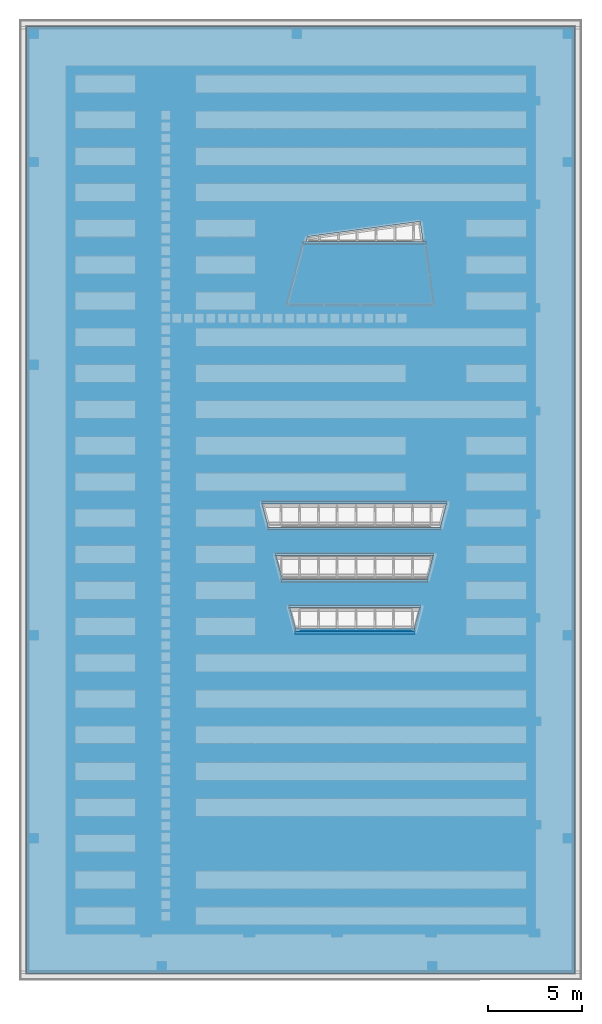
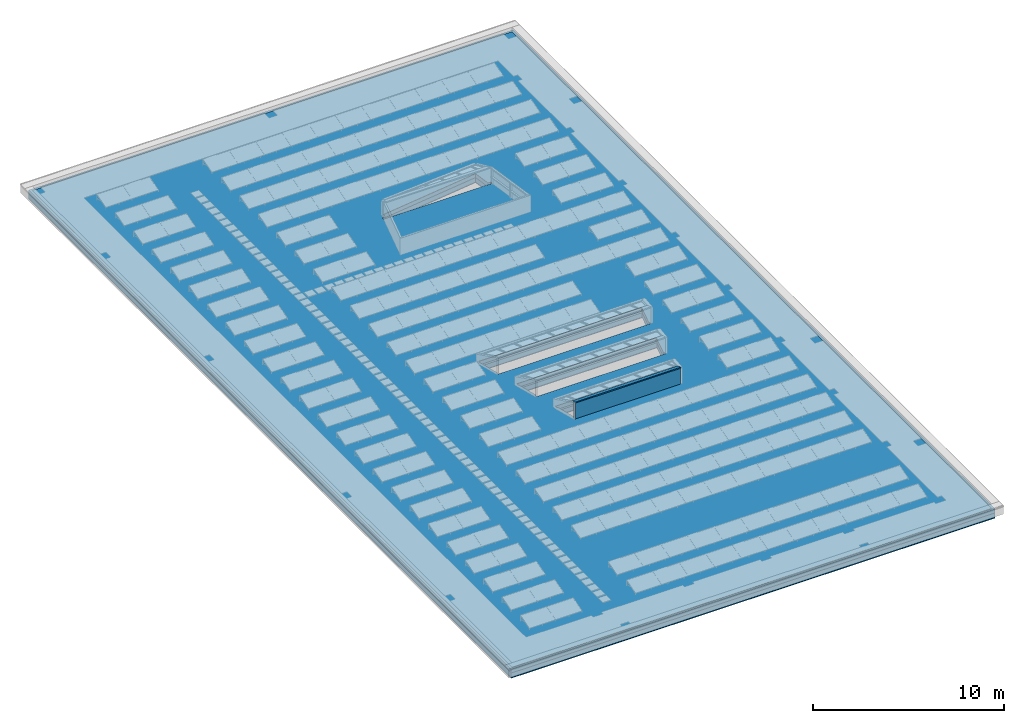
# One storey, part 10 of 20: 9 building element parts, 4 openings, 2 elements without a shape of their own.
"""IFC2X3 building model written with IfcOpenShell, lengths in millimetres."""

from ifc_helpers import new_model, entity, si_unit, converted_unit, derived_unit, money_unit, direction, frame, origin_with_axes, place, context, subcontext, project, spatial, faceted_brep, material, type_object, element, aggregate, save


model = new_model("IFC2X3")

# Units and contexts
model_context = context("Model", 3, precision=0.01, world=origin_with_axes(), true_north=direction((0.0, 1.0)))
plan_context = context("Plan", 3, precision=0.01, world=origin_with_axes(), true_north=direction((0.0, 1.0)))
body_context = subcontext(model_context, "Body", "Model", "MODEL_VIEW")
ifc_project = project(units=[si_unit("LENGTHUNIT", "METRE", prefix="MILLI"), si_unit("AREAUNIT", "SQUARE_METRE"), si_unit("VOLUMEUNIT", "CUBIC_METRE"), converted_unit("PLANEANGLEUNIT", "DEGREE", entity("IfcPlaneAngleMeasure", 0.0174532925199), si_unit("PLANEANGLEUNIT", "RADIAN"), dimensions=[0, 0, 0, 0, 0, 0, 0]), si_unit("SOLIDANGLEUNIT", "STERADIAN"), money_unit("EUR"), converted_unit("TIMEUNIT", "Year", entity("IfcTimeMeasure", 31556926.0), si_unit("TIMEUNIT", "SECOND"), dimensions=[0, 0, 1, 0, 0, 0, 0]), si_unit("MASSUNIT", "GRAM", prefix="KILO"), si_unit("THERMODYNAMICTEMPERATUREUNIT", "DEGREE_CELSIUS"), si_unit("LUMINOUSINTENSITYUNIT", "LUMEN"), si_unit("ENERGYUNIT", "JOULE", prefix="MEGA"), derived_unit("THERMALCONDUCTANCEUNIT", [(si_unit("POWERUNIT", "WATT"), 1), (si_unit("LENGTHUNIT", "METRE"), -1), (si_unit("THERMODYNAMICTEMPERATUREUNIT", "KELVIN"), -1)]), derived_unit("SPECIFICHEATCAPACITYUNIT", [(si_unit("ENERGYUNIT", "JOULE"), 1), (si_unit("MASSUNIT", "GRAM", prefix="KILO"), -1), (si_unit("THERMODYNAMICTEMPERATUREUNIT", "KELVIN"), -1)]), derived_unit("MASSDENSITYUNIT", [(si_unit("MASSUNIT", "GRAM", prefix="KILO"), 1), (si_unit("VOLUMEUNIT", "CUBIC_METRE"), -1)])], contexts=[model_context, plan_context])

# Site, building, storey
site_placement = place(None, origin_with_axes())
site = spatial("IfcSite", under=ifc_project, at=site_placement, Name="Site", CompositionType="ELEMENT")
building_placement = place(site_placement, origin_with_axes())
building = spatial("IfcBuilding", under=site, at=building_placement, Name="Naam gebouw", CompositionType="ELEMENT")
storey_placement = place(building_placement, frame((0.0, 0.0, 7920.0), z_axis=(0.0, 0.0, 1.0), x_axis=(1.0, 0.0, 0.0)))
storey = spatial("IfcBuildingStorey", under=building, at=storey_placement, Name="2e verdieping", CompositionType="ELEMENT", Elevation=7920.0)

# Slab, openings, building element parts
slab_type = type_object("IfcSlabType", Name="_TenW_27_Breedplaat+dv+iso RC 6,0 585", PredefinedType="NOTDEFINED")
slab_placement = place(storey_placement, origin_with_axes())
slab = element("IfcSlab", 1, at=slab_placement, inside=storey, type_object=slab_type, Name="23_Vloer_Vloer-x", PredefinedType="NOTDEFINED")
opening_1_placement = place(slab_placement, origin_with_axes())
element("IfcOpeningElement", 2, at=opening_1_placement, cuts=slab, Name="Slab Opening", context=body_context, shape_type="Brep", body=[
    faceted_brep([(21093.6899353, 38979.1967187, -7.59371232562e-07), (14901.6349117, 38979.1967187, -7.59371232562e-07), (14897.615672, 38964.1967119, -7.59371232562e-07), (21095.7215268, 38964.1967184, -7.59371232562e-07), (21093.6899264, 38979.1967188, 240.0), (14901.6349118, 38979.1967188, 240.0), (14897.6156496, 38964.1966284, -340.0), (14961.4449872, 39202.4109591, 0.0), (14961.4449872, 39202.4109591, -340.0), (21095.7214945, 38964.1966284, -340.0), (20953.5414853, 40013.971754, -340.0), (20953.5414853, 40013.971754, 0.0), (21093.6899042, 38979.1967188, 245.0), (14901.6349118, 38979.1967188, 245.0), (14961.4449872, 39202.4109591, 240.0), (20953.5414853, 40013.971754, 240.0), (20953.5414853, 40013.971754, 245.0), (14961.4449872, 39202.4109591, 245.0)], [[[0, 1, 2, 3]], [[4, 5, 1, 0]], [[6, 2, 1, 7, 8]], [[3, 2, 6, 9]], [[9, 10, 11, 0, 3]], [[12, 13, 5, 4]], [[7, 1, 5, 14]], [[0, 11, 15, 4]], [[10, 8, 7, 11]], [[9, 6, 8, 10]], [[12, 16, 17, 13]], [[17, 14, 5, 13]], [[4, 15, 16, 12]], [[15, 11, 7, 14]], [[15, 14, 17, 16]]]),
])
opening_2_placement = place(slab_placement, origin_with_axes())
element("IfcOpeningElement", 3, at=opening_2_placement, cuts=slab, Name="Slab Opening", context=body_context, shape_type="Brep", body=[
    faceted_brep([(13289.1303817, 22239.9869216, 0.0), (13289.1303817, 22239.9869216, -340.0), (13628.9964035, 20971.5896607, -340.0), (13628.9964035, 20971.5896607, 0.0), (13624.0668712, 20989.9869254, 0.0), (13294.489358, 22219.9869499, 0.0), (21628.4072441, 22239.9869216, -340.0), (21628.4072441, 22239.9869216, 0.0), (21302.0627868, 20971.5896607, -340.0), (21302.0627868, 20971.5896607, 0.0), (21306.7961983, 20989.9869254, 0.0), (13294.489358, 22219.9869499, 240.000001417), (13624.0680577, 20989.9869254, 240.000004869), (21623.2614746, 22219.9869499, 0.0), (21306.7961983, 20989.9869254, 240.000004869), (21623.2614746, 22219.9869499, 240.000001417), (13294.4893568, 22219.9869545, 245.0), (13624.0668707, 20989.9869276, 245.0), (21306.7961982, 20989.9869276, 245.0), (21623.2614758, 22219.9869545, 245.0)], [[[0, 1, 2, 3, 4, 5]], [[6, 1, 0, 7]], [[8, 2, 1, 6]], [[9, 3, 2, 8]], [[10, 4, 3, 9]], [[11, 5, 4, 12]], [[7, 0, 5, 13]], [[10, 9, 8, 6, 7, 13]], [[14, 12, 4, 10]], [[13, 5, 11, 15]], [[16, 11, 12, 17]], [[14, 10, 13, 15]], [[18, 17, 12, 14]], [[15, 11, 16, 19]], [[19, 16, 17, 18]], [[19, 18, 14, 15]]]),
])
opening_3_placement = place(slab_placement, origin_with_axes())
element("IfcOpeningElement", 4, at=opening_3_placement, cuts=slab, Name="Slab Opening", context=body_context, shape_type="Brep", body=[
    faceted_brep([(12549.5871063, 25000.0, -340.0), (12887.1908281, 23740.0457572, -340.0), (12887.1908281, 23740.0457572, 0.0), (12881.8318424, 23760.0457643, 0.0), (12552.2665906, 24990.0000283, 0.0), (12549.5871063, 25000.0, 0.0), (22014.2643927, 23740.0457572, -340.0), (22338.3539238, 25000.0, -340.0), (22014.2643927, 23740.0457572, 0.0), (22019.4088602, 23760.0457643, 0.0), (12881.8330284, 23760.0457643, 240.000004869), (12552.2665906, 24990.0000283, 240.000001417), (22338.3539238, 25000.0, 0.0), (22335.7816985, 24990.0000283, 0.0), (22019.4088602, 23760.0457643, 240.000004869), (12881.8318418, 23760.0457665, 245.0), (12552.2665894, 24990.000033, 245.0), (22335.7816985, 24990.0000283, 240.000001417), (22019.4088602, 23760.0457665, 245.0), (22335.7816997, 24990.000033, 245.0)], [[[0, 1, 2, 3, 4, 5]], [[6, 1, 0, 7]], [[8, 2, 1, 6]], [[9, 3, 2, 8]], [[4, 3, 10, 11]], [[12, 5, 4, 13]], [[7, 0, 5, 12]], [[9, 8, 6, 7, 12, 13]], [[14, 10, 3, 9]], [[11, 10, 15, 16]], [[13, 4, 11, 17]], [[13, 17, 14, 9]], [[18, 15, 10, 14]], [[19, 16, 15, 18]], [[17, 11, 16, 19]], [[18, 14, 17, 19]]]),
])
opening_4_placement = place(slab_placement, origin_with_axes())
element("IfcOpeningElement", 5, at=opening_4_placement, cuts=slab, Name="Slab Opening", context=body_context, shape_type="Brep", body=[
    faceted_brep([(14366.2826299, 18220.0000039, 0.0), (14371.6415965, 18200.0000683, 0.0), (20589.1246329, 18200.0070123, 0.0), (20594.2747205, 18220.0000039, 0.0), (14031.3461404, 19470.0, 0.0), (14031.3461404, 19470.0, -340.0), (14371.6415965, 18200.0000683, -340.0), (14036.7051167, 19450.0000283, 0.0), (20589.1246329, 18200.0070123, -340.0), (20916.2679882, 19470.0, -340.0), (20916.2679882, 19470.0, 0.0), (20911.1161032, 19450.0000283, 0.0), (20594.2747205, 18220.0000039, 240.000004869), (14366.2838159, 18220.0000039, 240.000004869), (14036.7051167, 19450.0000283, 240.000001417), (20911.1161032, 19450.0000283, 240.000001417), (14366.2826293, 18220.0000061, 245.0), (20594.2747204, 18220.0000061, 245.0), (14036.7051154, 19450.000033, 245.0), (20911.1161044, 19450.000033, 245.0)], [[[0, 1, 2, 3]], [[4, 5, 6, 1, 0, 7]], [[1, 6, 8, 2]], [[3, 2, 8, 9, 10, 11]], [[12, 13, 0, 3]], [[9, 5, 4, 10]], [[8, 6, 5, 9]], [[13, 14, 7, 0]], [[10, 4, 7, 11]], [[15, 12, 3, 11]], [[16, 13, 12, 17]], [[18, 14, 13, 16]], [[11, 7, 14, 15]], [[19, 17, 12, 15]], [[19, 18, 16, 17]], [[15, 14, 18, 19]]]),
])
ifc_material_1 = material(Name="Membraan - waterdicht")
building_element_part_1_placement = place(slab_placement, origin_with_axes())
building_element_part_1 = element("IfcBuildingElementPart", 6, at=building_element_part_1_placement, material=ifc_material_1, Name="Membraan - waterdicht", context=body_context, shape_type="Brep", body=[
    faceted_brep([(137.976078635, 137.976080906, 245.0), (29062.0239209, 137.976080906, 245.0), (29062.0239196, 50262.0239191, 245.0), (137.976080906, 50262.0239191, 245.0), (14897.6156747, 38964.1967219, 245.0), (14961.4449872, 39202.4109591, 245.0), (20953.5414853, 40013.971754, 245.0), (21095.7215268, 38964.1967183, 245.0), (21247.091042, 38964.1967448, 245.0), (21266.0524067, 38824.1970153, 245.0), (14708.8052736, 38824.1970153, 245.0), (14743.1643154, 38964.1967219, 245.0), (14296.6297514, 18220.0000039, 245.0), (14366.2826293, 18220.0000061, 245.0), (14036.7051154, 19450.000033, 245.0), (13987.9618458, 19450.0000283, 245.0), (13987.9618458, 19590.0000183, 245.0), (20967.0026049, 19590.0000183, 245.0), (20967.0026049, 19450.0000283, 245.0), (20911.1161044, 19450.000033, 245.0), (20594.2747204, 18220.0000061, 245.0), (20658.3346992, 18220.0000039, 245.0), (20658.3346992, 18080.0002973, 245.0), (14296.6297514, 18080.0002973, 245.0), (13576.0133521, 20989.9869254, 245.0), (13624.0668707, 20989.9869276, 245.0), (13294.4893568, 22219.9869545, 245.0), (13267.3454464, 22219.9869499, 245.0), (13267.3454464, 22359.9869398, 245.0), (21657.5586709, 22359.9869398, 245.0), (21657.5586709, 22219.9869499, 245.0), (21623.2614758, 22219.9869545, 245.0), (21306.7961982, 20989.9869276, 245.0), (21348.8907653, 20989.9869254, 245.0), (21348.8907653, 20849.9872188, 245.0), (13576.0133521, 20849.9872188, 245.0), (12854.3838538, 23760.0457643, 245.0), (12881.8318418, 23760.0457665, 245.0), (12552.2665894, 24990.000033, 245.0), (12545.7159481, 24990.0000283, 245.0), (12545.7159481, 25130.0000183, 245.0), (22365.8799581, 25130.0000183, 245.0), (22365.8799581, 24990.0000283, 245.0), (22335.7816997, 24990.000033, 245.0), (22019.4088602, 23760.0457665, 245.0), (22057.2120524, 23760.0457643, 245.0), (22057.2120524, 23620.0460577, 245.0), (12854.3838538, 23620.0460577, 245.0), (137.976078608, 137.976080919, 240.0), (29062.0239209, 137.976080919, 240.0), (29062.0239196, 50262.0239191, 240.0), (137.976080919, 50262.0239191, 240.0), (14961.4449872, 39202.4109591, 240.0), (14897.6156747, 38964.1967219, 240.000004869), (20953.5414853, 40013.971754, 240.0), (21095.7215268, 38964.1967184, 240.000004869), (21247.091042, 38964.1967448, 240.000004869), (21266.0524067, 38824.1970155, 240.0), (14708.8052736, 38824.1970155, 240.0), (14743.1643154, 38964.1967219, 240.000004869), (14366.2838159, 18220.0000039, 240.000004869), (14296.6297514, 18220.0000039, 240.000004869), (14036.7051167, 19450.0000283, 240.000001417), (13987.9618458, 19450.0000283, 240.000001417), (13987.9618458, 19590.0000136, 240.000001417), (20967.0026049, 19590.0000136, 240.000001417), (20967.0026049, 19450.0000283, 240.000001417), (20911.1161032, 19450.0000283, 240.000001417), (20594.2747205, 18220.0000039, 240.000004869), (20658.3346992, 18220.0000039, 240.000004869), (20658.3346992, 18080.0002975, 240.0), (14296.6297514, 18080.0002975, 240.0), (13624.0680577, 20989.9869254, 240.000004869), (13576.0133521, 20989.9869254, 240.000004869), (13294.489358, 22219.9869499, 240.000001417), (13267.3454464, 22219.9869499, 240.000001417), (13267.3454464, 22359.9869351, 240.000001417), (21657.5586709, 22359.9869351, 240.000001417), (21657.5586709, 22219.9869499, 240.000001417), (21623.2614746, 22219.9869499, 240.000001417), (21306.7961983, 20989.9869254, 240.000004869), (21348.8907653, 20989.9869254, 240.000004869), (21348.8907653, 20849.9872191, 240.0), (13576.0133521, 20849.9872191, 240.0), (12881.8330284, 23760.0457643, 240.000004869), (12854.3838538, 23760.0457643, 240.000004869), (12552.2665906, 24990.0000283, 240.000001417), (12545.7159481, 24990.0000283, 240.000001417), (12545.7159481, 25130.0000136, 240.000001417), (22365.8799581, 25130.0000136, 240.000001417), (22365.8799581, 24990.0000283, 240.000001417), (22335.7816985, 24990.0000283, 240.000001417), (22019.4088602, 23760.0457643, 240.000004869), (22057.2120524, 23760.0457643, 240.000004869), (22057.2120524, 23620.0460579, 240.0), (12854.3838538, 23620.0460579, 240.0)], [[[0, 1, 2, 3], [4, 5, 6, 7, 8, 9, 10, 11], [12, 13, 14, 15, 16, 17, 18, 19, 20, 21, 22, 23], [24, 25, 26, 27, 28, 29, 30, 31, 32, 33, 34, 35], [36, 37, 38, 39, 40, 41, 42, 43, 44, 45, 46, 47]], [[48, 49, 1, 0]], [[49, 50, 2, 1]], [[3, 2, 50, 51]], [[51, 48, 0, 3]], [[52, 5, 4, 53]], [[54, 6, 5, 52]], [[7, 6, 54, 55]], [[55, 56, 8, 7]], [[57, 9, 8, 56]], [[9, 57, 58, 10]], [[58, 59, 11, 10]], [[11, 59, 53, 4]], [[60, 13, 12, 61]], [[13, 60, 62, 14]], [[15, 14, 62, 63]], [[16, 15, 63, 64]], [[17, 16, 64, 65]], [[18, 17, 65, 66]], [[19, 18, 66, 67]], [[68, 20, 19, 67]], [[21, 20, 68, 69]], [[22, 21, 69, 70]], [[23, 22, 70, 71]], [[12, 23, 71, 61]], [[72, 25, 24, 73]], [[25, 72, 74, 26]], [[27, 26, 74, 75]], [[28, 27, 75, 76]], [[29, 28, 76, 77]], [[30, 29, 77, 78]], [[31, 30, 78, 79]], [[80, 32, 31, 79]], [[33, 32, 80, 81]], [[34, 33, 81, 82]], [[35, 34, 82, 83]], [[24, 35, 83, 73]], [[84, 37, 36, 85]], [[37, 84, 86, 38]], [[39, 38, 86, 87]], [[40, 39, 87, 88]], [[41, 40, 88, 89]], [[42, 41, 89, 90]], [[43, 42, 90, 91]], [[92, 44, 43, 91]], [[45, 44, 92, 93]], [[46, 45, 93, 94]], [[47, 46, 94, 95]], [[36, 47, 95, 85]], [[51, 50, 49, 48], [54, 52, 53, 59, 58, 57, 56, 55], [69, 68, 67, 66, 65, 64, 63, 62, 60, 61, 71, 70], [81, 80, 79, 78, 77, 76, 75, 74, 72, 73, 83, 82], [93, 92, 91, 90, 89, 88, 87, 86, 84, 85, 95, 94]]]),
])
ifc_material_2 = material(Name="Isolatie - Steenwol hard")
building_element_part_2_placement = place(slab_placement, origin_with_axes())
building_element_part_2 = element("IfcBuildingElementPart", 7, at=building_element_part_2_placement, material=ifc_material_2, Name="Isolatie - Steenwol hard", context=body_context, shape_type="Brep", body=[
    faceted_brep([(0.0, 50400.0, 240.0), (0.0, 0.0, 240.0), (29198.5707694, 0.0, 240.0), (29198.5707694, 50400.0, 240.0), (14708.8052736, 38824.1970155, 240.0), (14743.1643154, 38964.1967219, 240.000004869), (14897.6156496, 38964.1966284, 240.0), (14901.6349118, 38979.1967188, 240.0), (14961.4449872, 39202.4109591, 240.0), (20953.5414853, 40013.971754, 240.0), (21093.6899042, 38979.1967188, 240.0), (21095.7214945, 38964.1966284, 240.0), (21247.091042, 38964.1967448, 240.000004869), (21266.0524067, 38824.1970155, 240.0), (14036.7051167, 19450.0000283, 240.000002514), (13987.9618458, 19450.0000283, 240.000002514), (13987.9618458, 19590.000012, 240.000002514), (20967.0026049, 19590.000012, 240.000002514), (20967.0026049, 19450.0000283, 240.000002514), (20911.1160913, 19450.0000283, 240.000002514), (20594.2735836, 18220.0000039, 240.000005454), (20658.3346992, 18220.0000039, 240.000005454), (20658.3346992, 18080.0002975, 240.0), (14296.6297514, 18080.0002975, 240.0), (14296.6297514, 18220.0000039, 240.000005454), (14366.2826293, 18220.0000039, 240.000005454), (21623.2614627, 22219.9869499, 240.000002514), (21306.795062, 20989.9869254, 240.000005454), (21348.8907653, 20989.9869254, 240.000005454), (21348.8907653, 20849.9872191, 240.0), (13576.0133521, 20849.9872191, 240.0), (13576.0133521, 20989.9869254, 240.000005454), (13624.0668706, 20989.9869254, 240.000005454), (13294.489358, 22219.9869499, 240.000002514), (13267.3454464, 22219.9869499, 240.000002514), (13267.3454464, 22359.9869336, 240.000002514), (21657.5586709, 22359.9869336, 240.000002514), (21657.5586709, 22219.9869499, 240.000002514), (12854.3838538, 23760.0457643, 240.000005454), (12881.8318417, 23760.0457643, 240.000005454), (12552.2665906, 24990.0000283, 240.000002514), (12545.7159481, 24990.0000283, 240.000002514), (12545.7159481, 25130.000012, 240.000002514), (22365.8799581, 25130.000012, 240.000002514), (22365.8799581, 24990.0000283, 240.000002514), (22335.7816866, 24990.0000283, 240.000002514), (22019.407725, 23760.0457643, 240.000005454), (22057.2120524, 23760.0457643, 240.000005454), (22057.2120524, 23620.0460579, 240.0), (12854.3838538, 23620.0460579, 240.0), (1.01673364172e-07, 50399.9999999, 37.9754150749), (5.61009294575e-08, 50399.9999999, 20.9528205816), (0.0, 50400.0, 0.0), (0.0, 0.0, 0.0), (1.01664482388e-07, 0.0145862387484, 37.9754175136), (29198.5707694, 0.0145862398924, 37.9754175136), (29198.5707694, 50399.5010701, 37.9754133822), (29198.5707694, 50399.4535031, 6.88062833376e-05), (29198.5707694, 50400.0, 0.0), (29198.5707694, 50400.0, 10.8850403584), (29198.5707694, 50400.0, 37.9754161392), (29198.5707694, 0.0, 0.0), (29198.5707694, 0.546496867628, 6.88062833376e-05), (29198.5707694, 0.498929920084, 37.9754133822), (14708.8052731, 38824.1970131, -1.09201536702e-06), (14743.1643154, 38964.1967219, -1.09201536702e-06), (14897.6156496, 38964.1966284, 0.0), (14901.6349117, 38979.1967187, 0.0), (14961.4449872, 39202.4109591, 0.0), (20953.5414853, 40013.971754, 0.0), (21093.6899042, 38979.1967187, 0.0), (21095.7214945, 38964.1966284, 0.0), (21095.7215268, 38964.1967184, 49.9999951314), (21247.091042, 38964.1967448, 49.9999951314), (21247.091042, 38964.1967448, 0.0), (21266.052407, 38824.1970131, -1.09201536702e-06), (13987.9618458, 19450.0000283, 0.0), (14036.7051167, 19450.0000283, 0.0), (13987.9618458, 19590.0000136, 0.0), (20967.0026049, 19590.0000136, 0.0), (20967.0026049, 19450.0000283, 0.0), (20911.1161032, 19450.0000283, 0.0), (20594.2747205, 18220.0000039, 0.0), (20658.3346992, 18220.0000039, 0.0), (20658.3346992, 18080.0002975, -3.91967791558e-06), (14296.6297514, 18080.0002975, -3.91967791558e-06), (14296.6297514, 18220.0000039, 0.0), (14366.2826299, 18220.0000039, 0.0), (21306.7961983, 20989.9869254, 0.0), (21623.2614746, 22219.9869499, 0.0), (21348.8907653, 20989.9869254, 0.0), (21348.8907653, 20849.9872191, -3.91967791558e-06), (13576.0133521, 20849.9872191, -3.91967791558e-06), (13576.0133521, 20989.9869254, 0.0), (13624.0668712, 20989.9869254, 0.0), (13294.489358, 22219.9869499, 0.0), (13267.3454464, 22219.9869499, 0.0), (13267.3454464, 22359.9869351, 0.0), (21657.5586709, 22359.9869351, 0.0), (21657.5586709, 22219.9869499, 0.0), (12854.3838538, 23760.0457643, 0.0), (12881.8318424, 23760.0457643, 0.0), (12552.2665906, 24990.0000283, 0.0), (12545.7159481, 24990.0000283, 0.0), (12545.7159481, 25130.0000136, 0.0), (22365.8799581, 25130.0000136, 0.0), (22365.8799581, 24990.0000283, 0.0), (22335.7816985, 24990.0000283, 0.0), (22019.4088602, 23760.0457643, 0.0), (22057.2120524, 23760.0457643, 0.0), (22057.2120524, 23620.0460579, -3.91967791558e-06), (12854.3838538, 23620.0460579, -3.91967791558e-06), (0.546497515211, 18.5136353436, 6.88062833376e-05), (0.546497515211, 0.546496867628, 6.88062833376e-05), (0.546497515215, 50399.4535031, 6.88062833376e-05), (0.546497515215, 50381.4863647, 6.88062833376e-05), (0.498926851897, 50399.5010701, 37.9754133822), (0.498926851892, 0.498929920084, 37.9754133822), (0.498926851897, 50381.5063485, 37.9754133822), (0.498926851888, 18.4936515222, 37.9754133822), (0.498929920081, 119.976074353, 37.9754142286), (0.498929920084, 50280.0239256, 37.9754133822), (119.976074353, 50280.0239256, 37.9754150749), (119.976074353, 119.976074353, 37.9754150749), (29080.0239256, 119.976074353, 37.9754150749), (29080.0239256, 50280.0239256, 37.9754150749), (119.976072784, 119.976072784, -3.91967791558e-06), (119.976072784, 50280.0239272, -3.91967791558e-06), (29080.0239272, 50280.0239272, -3.91967791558e-06), (29080.0239272, 119.976072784, -3.91967791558e-06), (21578.4520082, 35660.7727225, 0.0), (13980.0235164, 35660.7727225, 0.0), (14813.4870857, 38771.3011092, 0.0), (14716.8945054, 38797.1830131, -3.91967791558e-06), (13849.7009823, 35560.7727249, -3.91967791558e-06), (21692.9088713, 35560.7727249, -3.91967791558e-06), (21254.3456356, 38798.8705304, -3.91967791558e-06), (21155.2503894, 38785.449215, 0.0), (21578.4520082, 35660.7727225, 49.9999951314), (13980.0235164, 35660.7727225, 49.9999951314), (14813.4870857, 38771.3011092, 49.9999951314), (14716.894503, 38797.1830137, 49.8467204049), (13849.7009791, 35560.7727225, 49.8467204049), (21692.9088741, 35560.7727225, 49.8467204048), (21254.345638, 38798.8705307, 49.8467204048), (21155.2503894, 38785.449215, 49.9999951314)], [[[0, 1, 2, 3], [4, 5, 6, 7, 8, 9, 10, 11, 12, 13], [14, 15, 16, 17, 18, 19, 20, 21, 22, 23, 24, 25], [26, 27, 28, 29, 30, 31, 32, 33, 34, 35, 36, 37], [38, 39, 40, 41, 42, 43, 44, 45, 46, 47, 48, 49]], [[1, 0, 50, 51, 52, 53, 54]], [[1, 54, 55, 2]], [[56, 57, 58, 59, 60, 3, 2, 55, 61, 62, 63]], [[50, 0, 3, 60]], [[64, 65, 5, 4]], [[5, 65, 66, 6]], [[66, 67, 7, 6]], [[67, 68, 8, 7]], [[8, 68, 69, 9]], [[69, 70, 10, 9]], [[71, 72, 11, 10, 70]], [[11, 72, 73, 12]], [[74, 75, 13, 12, 73]], [[64, 4, 13, 75]], [[76, 15, 14, 77]], [[78, 16, 15, 76]], [[79, 17, 16, 78]], [[80, 18, 17, 79]], [[81, 19, 18, 80]], [[81, 82, 20, 19]], [[82, 83, 21, 20]], [[21, 83, 84, 22]], [[22, 84, 85, 23]], [[85, 86, 24, 23]], [[86, 87, 25, 24]], [[77, 14, 25, 87]], [[88, 27, 26, 89]], [[90, 28, 27, 88]], [[90, 91, 29, 28]], [[91, 92, 30, 29]], [[93, 31, 30, 92]], [[94, 32, 31, 93]], [[33, 32, 94, 95]], [[34, 33, 95, 96]], [[35, 34, 96, 97]], [[36, 35, 97, 98]], [[37, 36, 98, 99]], [[26, 37, 99, 89]], [[39, 38, 100, 101]], [[39, 101, 102, 40]], [[40, 102, 103, 41]], [[41, 103, 104, 42]], [[42, 104, 105, 43]], [[43, 105, 106, 44]], [[44, 106, 107, 45]], [[46, 45, 107, 108]], [[47, 46, 108, 109]], [[110, 48, 47, 109]], [[111, 49, 48, 110]], [[38, 49, 111, 100]], [[51, 50, 60, 59]], [[52, 51, 59, 58]], [[112, 113, 53, 52, 114, 115]], [[54, 53, 61, 55]], [[116, 114, 57, 56]], [[57, 114, 52, 58]], [[61, 53, 113, 62]], [[113, 117, 63, 62]], [[118, 116, 56, 63, 117, 119, 120, 121], [122, 123, 124, 125]], [[126, 127, 128, 129], [65, 64, 75, 74, 71, 70, 69, 68, 67, 66], [130, 131, 132, 133, 134, 135, 136, 137], [85, 84, 83, 82, 81, 80, 79, 78, 76, 77, 87, 86], [99, 98, 97, 96, 95, 94, 93, 92, 91, 90, 88, 89], [101, 100, 111, 110, 109, 108, 107, 106, 105, 104, 103, 102]], [[71, 74, 73, 72]], [[117, 113, 112, 115, 114, 116, 118, 121, 120, 119]], [[126, 123, 122, 127]], [[123, 126, 129, 124]], [[124, 129, 128, 125]], [[127, 122, 125, 128]], [[138, 139, 131, 130]], [[131, 139, 140, 132]], [[133, 132, 140, 141]], [[134, 133, 141, 142]], [[135, 134, 142, 143]], [[143, 144, 136, 135]], [[136, 144, 145, 137]], [[130, 137, 145, 138]], [[143, 142, 139, 138]], [[139, 142, 141, 140]], [[138, 145, 144, 143]]]),
])
ifc_material_3 = material(Name="Beton gewapend C vloer")
building_element_part_3_placement = place(slab_placement, origin_with_axes())
building_element_part_3 = element("IfcBuildingElementPart", 8, at=building_element_part_3_placement, material=ifc_material_3, Name="Beton gewapend C vloer", context=body_context, shape_type="Brep", body=[
    faceted_brep([(0.546528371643, 50399.4534716, -0.024989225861), (0.546496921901, 50399.4535031, -7.59371232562e-07), (29198.5707694, 50399.4535031, -7.59371232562e-07), (29198.5707694, 50399.4534716, -0.024989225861), (0.546528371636, 0.546528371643, -0.024989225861), (0.546496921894, 0.546496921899, -7.59371232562e-07), (29198.5707694, 0.546496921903, -7.59371232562e-07), (22338.3539238, 25000.0, 0.0), (22014.2643927, 23740.0457572, 0.0), (12887.1908281, 23740.0457572, 0.0), (12549.5871063, 25000.0, 0.0), (21628.4072441, 22239.9869216, 0.0), (21302.0627868, 20971.5896607, 0.0), (13628.9964035, 20971.5896607, 0.0), (13289.1303817, 22239.9869216, 0.0), (20916.2679882, 19470.0, 0.0), (20589.1246329, 18200.0070123, 0.0), (14371.6415965, 18200.0000683, 0.0), (14031.3461404, 19470.0, 0.0), (14961.4449872, 39202.4109591, 0.0), (20953.5414853, 40013.971754, 0.0), (21095.7214945, 38964.1966284, 0.0), (14897.6156496, 38964.1966284, 0.0), (29198.5707694, 0.546528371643, -0.024989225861), (29198.5707694, 0.0, -0.024989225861), (29198.5707694, 0.0, -290.0), (29198.5707694, 50400.0, -290.0), (29198.5707694, 50400.0, -0.024989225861), (0.0, 50399.4534716, -0.024989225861), (0.0, 0.546528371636, -0.024989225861), (0.0, 0.0, -0.024989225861), (0.0, 50400.0, -0.024989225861), (22338.3539238, 25000.0, -290.0), (22014.2643927, 23740.0457572, -290.0), (12887.1908281, 23740.0457572, -290.0), (12549.5871063, 25000.0, -290.0), (21628.4072441, 22239.9869216, -290.0), (21302.0627868, 20971.5896607, -290.0), (13628.9964035, 20971.5896607, -290.0), (13289.1303817, 22239.9869216, -290.0), (20916.2679882, 19470.0, -290.0), (20589.1246329, 18200.0070123, -290.0), (14371.6415965, 18200.0000683, -290.0), (14031.3461404, 19470.0, -290.0), (14961.4449872, 39202.4109591, -290.0), (20953.5414853, 40013.971754, -290.0), (21095.7214945, 38964.1966284, -290.0), (14897.6156496, 38964.1966284, -290.0), (0.0, 0.0, -290.0), (0.0, 50400.0, -290.0)], [[[0, 1, 2, 3]], [[1, 0, 4, 5]], [[2, 1, 5, 6], [7, 8, 9, 10], [11, 12, 13, 14], [15, 16, 17, 18], [19, 20, 21, 22]], [[23, 24, 25, 26, 27, 3, 2, 6]], [[28, 29, 30, 24, 23, 4, 0, 3, 27, 31]], [[5, 4, 23, 6]], [[7, 32, 33, 8]], [[8, 33, 34, 9]], [[9, 34, 35, 10]], [[10, 35, 32, 7]], [[11, 36, 37, 12]], [[12, 37, 38, 13]], [[13, 38, 39, 14]], [[14, 39, 36, 11]], [[15, 40, 41, 16]], [[16, 41, 42, 17]], [[17, 42, 43, 18]], [[18, 43, 40, 15]], [[19, 44, 45, 20]], [[20, 45, 46, 21]], [[21, 46, 47, 22]], [[22, 47, 44, 19]], [[24, 30, 48, 25]], [[25, 48, 49, 26], [32, 35, 34, 33], [36, 39, 38, 37], [40, 43, 42, 41], [44, 47, 46, 45]], [[31, 27, 26, 49]], [[29, 28, 31, 49, 48, 30]]]),
])
ifc_material_4 = material(Name="Beton gewapend prefab vloer")
building_element_part_4_placement = place(slab_placement, origin_with_axes())
building_element_part_4 = element("IfcBuildingElementPart", 9, at=building_element_part_4_placement, material=ifc_material_4, Name="Beton gewapend prefab vloer", context=body_context, shape_type="Brep", body=[
    faceted_brep([(29198.5707694, 0.0, -290.0), (29198.5707694, 0.0, -340.0), (29198.5707694, 50400.0, -340.0), (29198.5707694, 50400.0, -290.0), (0.0, 0.0, -290.0), (0.0, 0.0, -340.0), (0.0, 50400.0, -340.0), (22338.3539238, 25000.0, -340.0), (12549.5871063, 25000.0, -340.0), (12887.1908281, 23740.0457572, -340.0), (22014.2643927, 23740.0457572, -340.0), (21628.4072441, 22239.9869216, -340.0), (13289.1303817, 22239.9869216, -340.0), (13628.9964035, 20971.5896607, -340.0), (21302.0627868, 20971.5896607, -340.0), (20916.2679882, 19470.0, -340.0), (14031.3461404, 19470.0, -340.0), (14371.6415965, 18200.0000683, -340.0), (20589.1246329, 18200.0070123, -340.0), (14961.4449872, 39202.4109591, -340.0), (14897.6156496, 38964.1966284, -340.0), (21095.7214945, 38964.1966284, -340.0), (20953.5414853, 40013.971754, -340.0), (0.0, 50400.0, -290.0), (22338.3539238, 25000.0, -290.0), (22014.2643927, 23740.0457572, -290.0), (12887.1908281, 23740.0457572, -290.0), (12549.5871063, 25000.0, -290.0), (21628.4072441, 22239.9869216, -290.0), (21302.0627868, 20971.5896607, -290.0), (13628.9964035, 20971.5896607, -290.0), (13289.1303817, 22239.9869216, -290.0), (20916.2679882, 19470.0, -290.0), (20589.1246329, 18200.0070123, -290.0), (14371.6415965, 18200.0000683, -290.0), (14031.3461404, 19470.0, -290.0), (14961.4449872, 39202.4109591, -290.0), (20953.5414853, 40013.971754, -290.0), (21095.7214945, 38964.1966284, -290.0), (14897.6156496, 38964.1966284, -290.0)], [[[0, 1, 2, 3]], [[4, 5, 1, 0]], [[1, 5, 6, 2], [7, 8, 9, 10], [11, 12, 13, 14], [15, 16, 17, 18], [19, 20, 21, 22]], [[3, 2, 6, 23]], [[0, 3, 23, 4], [24, 25, 26, 27], [28, 29, 30, 31], [32, 33, 34, 35], [36, 37, 38, 39]], [[23, 6, 5, 4]], [[27, 8, 7, 24]], [[26, 9, 8, 27]], [[25, 10, 9, 26]], [[24, 7, 10, 25]], [[31, 12, 11, 28]], [[30, 13, 12, 31]], [[29, 14, 13, 30]], [[28, 11, 14, 29]], [[35, 16, 15, 32]], [[34, 17, 16, 35]], [[33, 18, 17, 34]], [[32, 15, 18, 33]], [[39, 20, 19, 36]], [[38, 21, 20, 39]], [[37, 22, 21, 38]], [[36, 19, 22, 37]]]),
])
aggregate(slab, [building_element_part_1, building_element_part_2, building_element_part_3, building_element_part_4])

# Beam, building element parts
beam_type = type_object("IfcBeamType", Name="_TenW_27_lichtstraatrand 01 331 x 1666", PredefinedType="BEAM")
beam_placement = place(storey_placement, frame((14296.6297514, 18220.0000039, 0.0), z_axis=(0.0, 0.0, 1.0), x_axis=(0.0, -1.0, 0.0)))
beam = element("IfcBeam", 10, at=beam_placement, inside=storey, type_object=beam_type, Name="28_Balk_Regenwaterafvoer-x", ObjectType="BEAM")
ifc_material_5 = material(Name="Hout - Multiplex groen")
building_element_part_5_placement = place(beam_placement, origin_with_axes())
building_element_part_5 = element("IfcBuildingElementPart", 11, at=building_element_part_5_placement, material=ifc_material_5, Name="Hout - Multiplex groen", context=body_context, shape_type="Brep", body=[
    faceted_brep([(154.991493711, 6361.70494781, 245.0), (139.999707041, 6361.70494781, 245.0), (139.999710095, 6361.70494781, 1315.97099684), (154.955420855, 6361.70494781, 1321.37430351), (139.999707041, 0.0, 245.0), (154.991493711, 0.0, 245.0), (139.999710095, 0.0, 1315.97099684), (154.955420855, 0.0, 1321.37430351)], [[[0, 1, 2, 3]], [[4, 1, 0, 5]], [[1, 4, 6, 2]], [[7, 3, 2, 6]], [[5, 0, 3, 7]], [[4, 5, 7, 6]]]),
])
ifc_material_6 = material(Name="Hout - Multiplex wit")
building_element_part_6_placement = place(beam_placement, origin_with_axes())
building_element_part_6 = element("IfcBuildingElementPart", 12, at=building_element_part_6_placement, material=ifc_material_6, Name="Hout - Multiplex wit", context=body_context, shape_type="Brep", body=[
    faceted_brep([(3.85360010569e-06, 6297.64496744, 245.0), (3.85360010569e-06, 6361.70494781, 245.0), (3.85360010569e-06, 6361.70494781, 1265.26127855), (3.85360010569e-06, 0.0, 1265.26127855), (3.85360010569e-06, 0.0, 245.0), (3.85360010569e-06, 69.6528795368, 245.0), (3.85360010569e-06, 69.6528795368, 0.0), (3.85360010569e-06, 6297.64496744, 0.0), (-14.9999970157, 6301.5088869, 245.0), (-14.9999970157, 6361.70494781, 245.0), (-14.9999970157, 6361.70494781, 1260.28052611), (-14.9999970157, 0.0, 1260.28052611), (-14.9999970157, 0.0, 245.0), (-14.9999970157, 65.6336414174, 245.0), (-14.9999970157, 65.6336414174, -340.0), (3.85360010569e-06, 69.6528795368, -340.0), (3.85360010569e-06, 6297.64496744, -340.0), (-14.9999970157, 6301.5088869, -340.0)], [[[0, 1, 2, 3, 4, 5, 6, 7]], [[8, 9, 1, 0]], [[1, 9, 10, 2]], [[11, 3, 2, 10]], [[12, 4, 3, 11]], [[5, 4, 12, 13]], [[5, 13, 14, 15, 6]], [[6, 15, 16, 7]], [[8, 0, 7, 16, 17]], [[8, 17, 14, 13, 12, 11, 10, 9]], [[15, 14, 17, 16]]]),
])
ifc_material_7 = material(Name="Metaal - Aluminium")
building_element_part_7_placement = place(beam_placement, origin_with_axes())
building_element_part_7 = element("IfcBuildingElementPart", 13, at=building_element_part_7_placement, material=ifc_material_7, Name="Metaal - Aluminium", context=body_context, shape_type="Brep", body=[
    faceted_brep([(163.31299662, 6361.70494781, 1325.52243299), (-91.4527412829, 6361.70494781, 1235.74767224), (-91.4527412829, 0.0, 1235.74767224), (163.31299662, 0.0, 1325.52243299), (163.31299662, 6361.70494781, 1257.83227189), (161.31299662, 6361.70494781, 1257.83227189), (161.31299662, 6361.70494781, 1323.63833662), (-167.391151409, 6361.70494781, 1206.58182347), (-168.062106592, 6361.70494781, 1208.46591984), (-168.062106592, 0.0, 1208.46591984), (-167.391151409, 0.0, 1206.58182347), (161.31299662, 0.0, 1323.63833662), (161.31299662, 0.0, 1257.83227189), (163.31299662, 0.0, 1257.83227189)], [[[0, 1, 2, 3]], [[0, 4, 5, 6, 7, 8, 1]], [[1, 8, 9, 2]], [[3, 2, 9, 10, 11, 12, 13]], [[4, 0, 3, 13]], [[5, 4, 13, 12]], [[6, 5, 12, 11]], [[7, 6, 11, 10]], [[8, 7, 10, 9]]]),
])
ifc_material_8 = material(Name="Isolatie - Kunststof hard")
building_element_part_8_placement = place(beam_placement, origin_with_axes())
building_element_part_8 = element("IfcBuildingElementPart", 14, at=building_element_part_8_placement, material=ifc_material_8, Name="Isolatie - Kunststof hard", context=body_context, shape_type="Brep", body=[
    faceted_brep([(2.24951079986e-06, 6361.70494781, 1215.261279), (-1.70547664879e-06, 6361.70494781, 1000.00000178), (-1.70547664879e-06, 0.0, 1000.00000178), (2.24951079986e-06, 0.0, 1215.261279), (139.999708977, 6361.70494781, 1215.1080034), (139.999708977, 6361.70494781, 999.846726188), (139.999708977, 0.0, 999.846726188), (139.999708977, 0.0, 1215.1080034)], [[[0, 1, 2, 3]], [[0, 4, 5, 1]], [[1, 5, 6, 2]], [[3, 2, 6, 7]], [[4, 0, 3, 7]], [[5, 4, 7, 6]]]),
])
building_element_part_9_placement = place(beam_placement, origin_with_axes())
building_element_part_9 = element("IfcBuildingElementPart", 15, at=building_element_part_9_placement, material=ifc_material_8, Name="Isolatie - Kunststof hard", context=body_context, shape_type="Brep", body=[
    faceted_brep([(-6.51494147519e-06, 6361.70494781, 950.00000856), (4.06717859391e-06, 6361.70494781, 289.999999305), (4.06717859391e-06, 0.0, 289.999999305), (-6.51494147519e-06, 0.0, 950.00000856), (139.999708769, 6361.70494781, 949.846726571), (139.999708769, 6361.70494781, 289.846727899), (139.999708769, 0.0, 289.846727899), (139.999708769, 0.0, 949.846726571)], [[[0, 1, 2, 3]], [[0, 4, 5, 1]], [[1, 5, 6, 2]], [[3, 2, 6, 7]], [[4, 0, 3, 7]], [[5, 4, 7, 6]]]),
])
aggregate(beam, [building_element_part_5, building_element_part_6, building_element_part_7, building_element_part_8, building_element_part_9])

save(model, "model.ifc")
